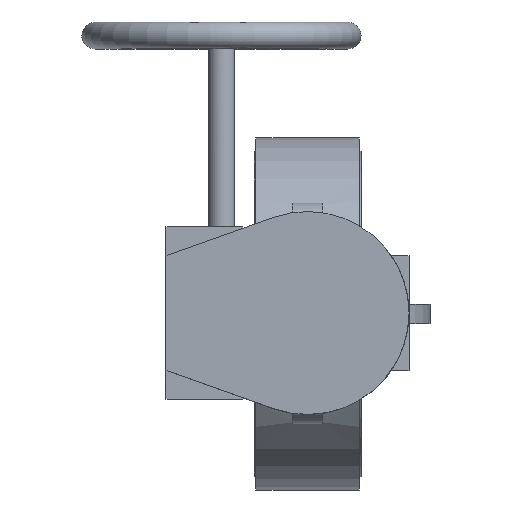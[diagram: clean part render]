
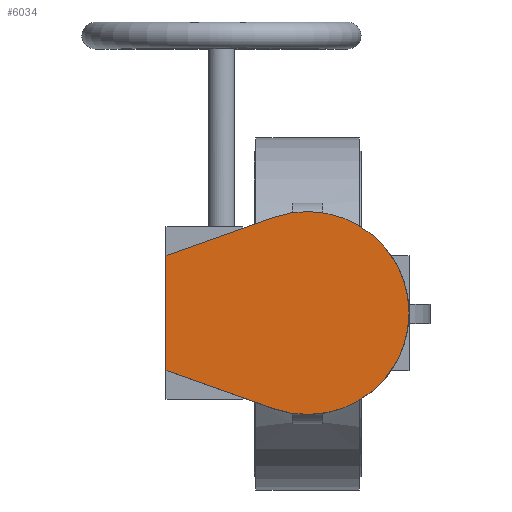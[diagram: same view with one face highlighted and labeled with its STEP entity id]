
A CAD part, top view. The second image highlights one B-rep face of the part: STEP entity #6034.
In plain terms, the highlighted planar face has unit normal (0, 0, 1).
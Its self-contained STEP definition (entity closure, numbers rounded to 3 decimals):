
#6034=ADVANCED_FACE('',(#11001),#11003,.T.);
#11001=FACE_BOUND('',#11002,.T.);
#11002=EDGE_LOOP('',(#14959,#14960,#14961,#14962));
#11003=PLANE('',#11004);
#11004=AXIS2_PLACEMENT_3D('',#11005,#11006,#11007);
#11005=CARTESIAN_POINT('',(0.,0.,278.));
#11006=DIRECTION('',(0.,0.,1.));
#11007=DIRECTION('',(0.,1.,0.));
#14959=ORIENTED_EDGE('',*,*,#16961,.T.);
#14960=ORIENTED_EDGE('',*,*,#16957,.T.);
#14961=ORIENTED_EDGE('',*,*,#16950,.T.);
#14962=ORIENTED_EDGE('',*,*,#16945,.T.);
#16945=EDGE_CURVE('',#20164,#20162,#20165,.T.);
#16950=EDGE_CURVE('',#20172,#20164,#20173,.T.);
#16957=EDGE_CURVE('',#20185,#20172,#20186,.T.);
#16961=EDGE_CURVE('',#20162,#20185,#20191,.T.);
#20162=VERTEX_POINT('',#29353);
#20164=VERTEX_POINT('',#29357);
#20165=LINE('',#29358,#29359);
#20172=VERTEX_POINT('',#29375);
#20173=LINE('',#29376,#29377);
#20185=VERTEX_POINT('',#29402);
#20186=LINE('',#29403,#29404);
#20191=CIRCLE('',#29416,53.);
#29353=CARTESIAN_POINT('',(-17.708,-49.954,278.));
#29357=CARTESIAN_POINT('',(-74.,-30.,278.));
#29358=CARTESIAN_POINT('',(-74.,-30.,278.));
#29359=VECTOR('',#29360,1.);
#29360=DIRECTION('',(0.943,-0.334,0.));
#29375=CARTESIAN_POINT('',(-74.,30.,278.));
#29376=CARTESIAN_POINT('',(-74.,30.,278.));
#29377=VECTOR('',#29378,1.);
#29378=DIRECTION('',(0.,-1.,0.));
#29402=CARTESIAN_POINT('',(-17.708,49.954,278.));
#29403=CARTESIAN_POINT('',(-17.708,49.954,278.));
#29404=VECTOR('',#29405,1.);
#29405=DIRECTION('',(-0.943,-0.334,0.));
#29416=AXIS2_PLACEMENT_3D('',#29417,#29418,#29419);
#29417=CARTESIAN_POINT('',(0.,0.,278.));
#29418=DIRECTION('',(0.,0.,1.));
#29419=DIRECTION('',(-0.334,-0.943,0.));
